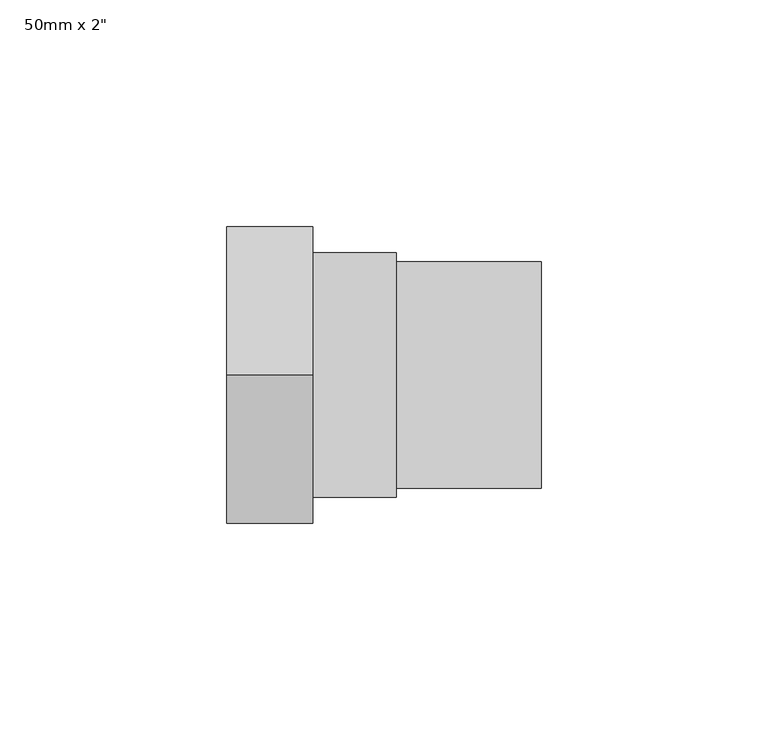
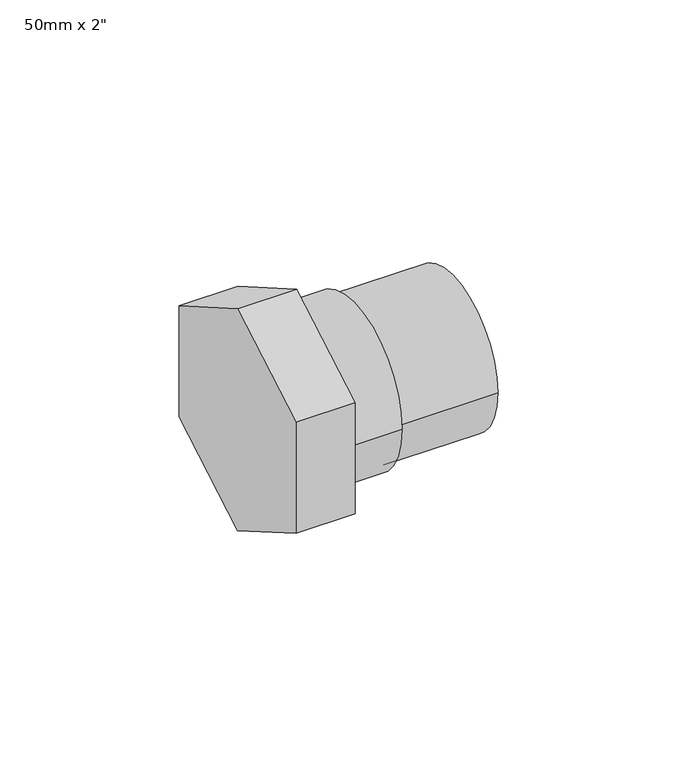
"""IFC4 building model written with IfcOpenShell, lengths in millimetres: pipe fitting geometry."""

from ifc_helpers import new_model, si_unit, point, frame, origin, origin_2d, place, context, project, spatial, polyline, circle_curve, trimmed, segment, composite_curve, outline, extrude, source, transform, mapped, element, save


def pipe_fitting_80746efc(model_context):
    return source(origin(), model_context, "Body", "SweptSolid", [
        extrude(outline(composite_curve([segment(trimmed(circle_curve(origin_2d(), 27.0), [point((27.0, 0.0))], [point((-27.0, 0.0))], False, "CARTESIAN"), True, "CONTINUOUS"), segment(trimmed(circle_curve(origin_2d(), 27.0), [point((-27.0, 0.0))], [point((27.0, 0.0))], False, "CARTESIAN"), True, "CONTINUOUS")], self_intersect=False)), frame((19.0, 0.0, 0.0), z_axis=(1.0, 0.0, 0.0), x_axis=(0.0, 1.0, 0.0)), (0.0, 0.0, 1.0), 18.5),
        extrude(outline(composite_curve([segment(trimmed(circle_curve(origin_2d(), 25.0), [point((25.0, 0.0))], [point((-25.0, 0.0))], False, "CARTESIAN"), True, "CONTINUOUS"), segment(trimmed(circle_curve(origin_2d(), 25.0), [point((-25.0, 0.0))], [point((25.0, 0.0))], False, "CARTESIAN"), True, "CONTINUOUS")], self_intersect=False)), frame((37.5, 0.0, 0.0), z_axis=(1.0, 0.0, 0.0), x_axis=(0.0, 1.0, 0.0)), (0.0, 0.0, 1.0), 32.0),
        extrude(outline(polyline([(0.0, 37.8164426), (32.75, 18.9082213), (32.75, -18.9082213), (0.0, -37.8164426), (-32.75, -18.9082213), (-32.75, 18.9082213), (0.0, 37.8164426)])), frame((0.0, 0.0, 0.0), z_axis=(1.0, 0.0, 0.0), x_axis=(0.0, 1.0, 0.0)), (0.0, 0.0, 1.0), 19.0),
    ])


if __name__ == "__main__":
    model = new_model("IFC4")
    model_context = context("Model", 3, world=origin())
    ifc_project = project(units=[si_unit("LENGTHUNIT", "METRE", prefix="MILLI")], contexts=[model_context])
    site = spatial("IfcSite", under=ifc_project)
    building = spatial("IfcBuilding", under=site)
    placement = place(None, origin())
    pipe_fitting_shape = pipe_fitting_80746efc(model_context)
    element("IfcPipeFitting", 1, ObjectType="PipeFitting_HTA_CPVC_TapConnectorsWithBrassNuts : 50mm x 2\"", at=placement, inside=building, context=model_context, shape_type="MappedRepresentation", body=[
        mapped(pipe_fitting_shape, transform((0.0, 0.0, 0.0), x_axis=(1.0, 0.0, 0.0), y_axis=(0.0, 1.0, 0.0), z_axis=(0.0, 0.0, 1.0))),
    ])
    save(model, "model.ifc")
